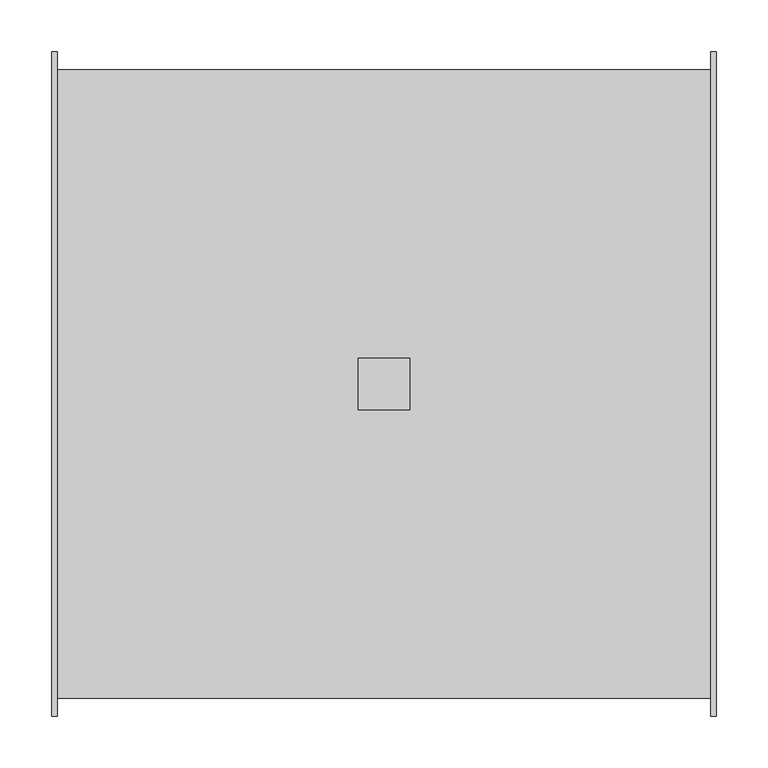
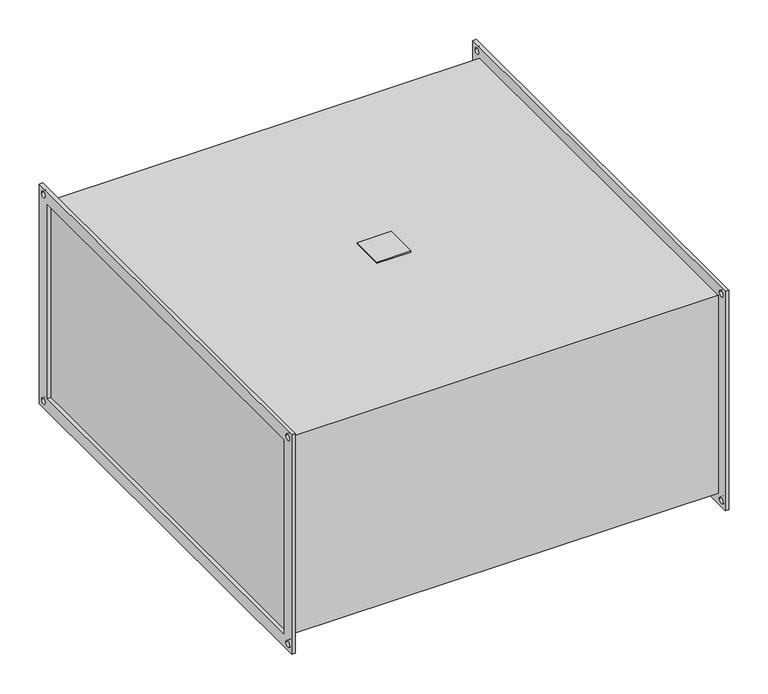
"""IFC4 building model written with IfcOpenShell, lengths in millimetres: damper geometry, KORF_Фильтр_Карманный_FKR : FKR 60-30  EU5."""

from ifc_helpers import new_model, si_unit, point, frame, frame_2d, origin, place, context, project, spatial, polyline, circle_curve, trimmed, segment, composite_curve, outline, extrude, source, transform, mapped, element, save


def damper_7db6d74d(model_context):
    return source(origin(), model_context, "Body", "SweptSolid", [
        extrude(outline(polyline([(345.0, 25.0), (345.0, -25.0), (295.0, -25.0), (295.0, 25.0), (345.0, 25.0)])), frame((0.0, 0.0, 153.0), z_axis=(0.0, 0.0, 1.0), x_axis=(1.0, 0.0, 0.0)), (0.0, 0.0, 1.0), 2.0),
        extrude(outline(polyline([(-320.0, 170.0), (320.0, 170.0), (320.0, -170.0), (-320.0, -170.0), (-320.0, 170.0)]), holes=[polyline([(-300.0, 150.0), (-300.0, -150.0), (300.0, -150.0), (300.0, 150.0), (-300.0, 150.0)]), composite_curve([segment(trimmed(circle_curve(frame_2d((310.0, 160.0)), 4.5), [point((305.5, 160.0))], [point((314.5, 160.0))], True, "CARTESIAN"), True, "CONTINUOUS"), segment(trimmed(circle_curve(frame_2d((310.0, 160.0)), 4.5), [point((314.5, 160.0))], [point((305.5, 160.0))], True, "CARTESIAN"), True, "CONTINUOUS")], self_intersect=False), composite_curve([segment(trimmed(circle_curve(frame_2d((-310.0, 160.0)), 4.5), [point((-314.5, 160.0))], [point((-305.5, 160.0))], True, "CARTESIAN"), True, "CONTINUOUS"), segment(trimmed(circle_curve(frame_2d((-310.0, 160.0)), 4.5), [point((-305.5, 160.0))], [point((-314.5, 160.0))], True, "CARTESIAN"), True, "CONTINUOUS")], self_intersect=False), composite_curve([segment(trimmed(circle_curve(frame_2d((-310.0, -160.0)), 4.5), [point((-314.5, -160.0))], [point((-305.5, -160.0))], True, "CARTESIAN"), True, "CONTINUOUS"), segment(trimmed(circle_curve(frame_2d((-310.0, -160.0)), 4.5), [point((-305.5, -160.0))], [point((-314.5, -160.0))], True, "CARTESIAN"), True, "CONTINUOUS")], self_intersect=False), composite_curve([segment(trimmed(circle_curve(frame_2d((310.0, -160.0)), 4.5), [point((305.5, -160.0))], [point((314.5, -160.0))], True, "CARTESIAN"), True, "CONTINUOUS"), segment(trimmed(circle_curve(frame_2d((310.0, -160.0)), 4.5), [point((314.5, -160.0))], [point((305.5, -160.0))], True, "CARTESIAN"), True, "CONTINUOUS")], self_intersect=False)]), frame((635.0, 0.0, 0.0), z_axis=(1.0, 0.0, 0.0), x_axis=(0.0, 1.0, 0.0)), (0.0, 0.0, 1.0), 5.0),
        extrude(outline(polyline([(-320.0, 170.0), (320.0, 170.0), (320.0, -170.0), (-320.0, -170.0), (-320.0, 170.0)]), holes=[polyline([(-300.0, 150.0), (-300.0, -150.0), (300.0, -150.0), (300.0, 150.0), (-300.0, 150.0)]), composite_curve([segment(trimmed(circle_curve(frame_2d((310.0, 160.0)), 4.5), [point((305.5, 160.0))], [point((314.5, 160.0))], True, "CARTESIAN"), True, "CONTINUOUS"), segment(trimmed(circle_curve(frame_2d((310.0, 160.0)), 4.5), [point((314.5, 160.0))], [point((305.5, 160.0))], True, "CARTESIAN"), True, "CONTINUOUS")], self_intersect=False), composite_curve([segment(trimmed(circle_curve(frame_2d((-310.0, 160.0)), 4.5), [point((-314.5, 160.0))], [point((-305.5, 160.0))], True, "CARTESIAN"), True, "CONTINUOUS"), segment(trimmed(circle_curve(frame_2d((-310.0, 160.0)), 4.5), [point((-305.5, 160.0))], [point((-314.5, 160.0))], True, "CARTESIAN"), True, "CONTINUOUS")], self_intersect=False), composite_curve([segment(trimmed(circle_curve(frame_2d((-310.0, -160.0)), 4.5), [point((-314.5, -160.0))], [point((-305.5, -160.0))], True, "CARTESIAN"), True, "CONTINUOUS"), segment(trimmed(circle_curve(frame_2d((-310.0, -160.0)), 4.5), [point((-305.5, -160.0))], [point((-314.5, -160.0))], True, "CARTESIAN"), True, "CONTINUOUS")], self_intersect=False), composite_curve([segment(trimmed(circle_curve(frame_2d((310.0, -160.0)), 4.5), [point((305.5, -160.0))], [point((314.5, -160.0))], True, "CARTESIAN"), True, "CONTINUOUS"), segment(trimmed(circle_curve(frame_2d((310.0, -160.0)), 4.5), [point((314.5, -160.0))], [point((305.5, -160.0))], True, "CARTESIAN"), True, "CONTINUOUS")], self_intersect=False)]), frame((0.0, 0.0, 0.0), z_axis=(1.0, 0.0, 0.0), x_axis=(0.0, 1.0, 0.0)), (0.0, 0.0, 1.0), 5.0),
        extrude(outline(polyline([(635.0, 303.0), (635.0, -303.0), (5.0, -303.0), (5.0, 303.0), (635.0, 303.0)])), frame((0.0, 0.0, -153.0), z_axis=(0.0, 0.0, 1.0), x_axis=(1.0, 0.0, 0.0)), (0.0, 0.0, 1.0), 306.0),
    ])


if __name__ == "__main__":
    model = new_model("IFC4")
    model_context = context("Model", 3, world=origin())
    ifc_project = project(units=[si_unit("LENGTHUNIT", "METRE", prefix="MILLI")], contexts=[model_context])
    site = spatial("IfcSite", under=ifc_project)
    building = spatial("IfcBuilding", under=site)
    placement = place(None, origin())
    damper_shape = damper_7db6d74d(model_context)
    element("IfcDamper", 1, ObjectType="KORF_Фильтр_Карманный_FKR : FKR 60-30  EU5", at=placement, inside=building, context=model_context, shape_type="MappedRepresentation", body=[
        mapped(damper_shape, transform((0.0, 0.0, 0.0), x_axis=(1.0, 0.0, 0.0), y_axis=(0.0, 1.0, 0.0), z_axis=(0.0, 0.0, 1.0))),
    ])
    save(model, "model.ifc")
